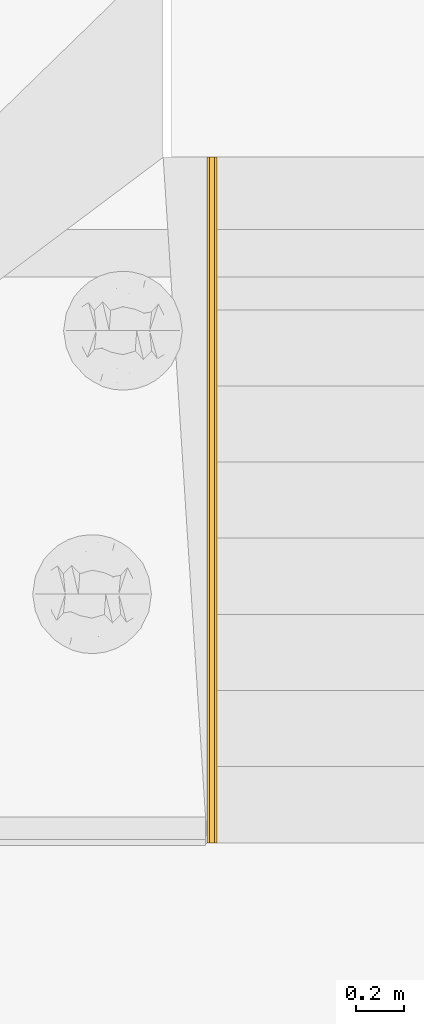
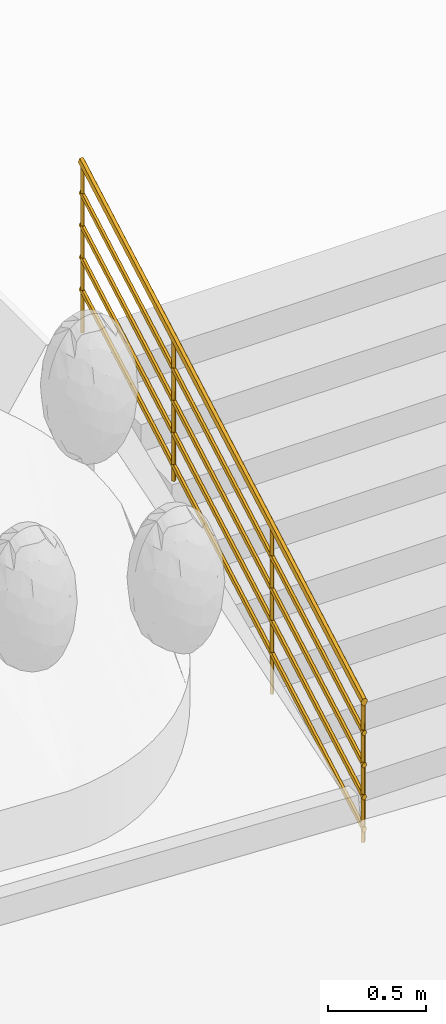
# One storey, part 18 of 23: 1 railing.
"""IFC2X3 building model written with IfcOpenShell, lengths in metres."""

from ifc_helpers import new_model, entity, si_unit, converted_unit, direction, frame, origin, place, context, subcontext, project, spatial, faceted_brep, material, material_list, type_object, element, save


model = new_model("IFC2X3")

# Units and contexts
model_context = context("Model", 3, precision=1e-05, world=origin(), true_north=direction((0.7716245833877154, 0.6360782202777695)))
body_context = subcontext(model_context, "Body", "Model", "MODEL_VIEW")
ifc_project = project(units=[si_unit("LENGTHUNIT", "METRE"), converted_unit("PLANEANGLEUNIT", "DEGREE", entity("IfcPlaneAngleMeasure", 0.017453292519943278), si_unit("PLANEANGLEUNIT", "RADIAN"), dimensions=[0, 0, 0, 0, 0, 0, 0]), si_unit("AREAUNIT", "SQUARE_METRE")], contexts=[model_context])

# Site, building, storey
site_placement = place(None, origin())
site = spatial("IfcSite", under=ifc_project, at=site_placement, Name="Default", CompositionType="ELEMENT")
building_placement = place(site_placement, origin())
building = spatial("IfcBuilding", under=site, at=building_placement, Name="<Building Name>", CompositionType="ELEMENT")
storey_placement = place(building_placement, origin())
storey = spatial("IfcBuildingStorey", under=building, at=storey_placement, Name="00 - HAV", CompositionType="ELEMENT", Elevation=0.0)

# Railing
ifc_material_1 = material(Name="A_Finish_Metal_Steel_Brushed")
ifc_material_2 = material(Name="Lys")
ifc_material_list = material_list([ifc_material_1, ifc_material_2])
railing_type = type_object("IfcRailingType", Name="Railing:900mm Pipe", PredefinedType="NOTDEFINED")
railing_placement = place(storey_placement, frame((244.40155707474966, 46.70337881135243, 31.679294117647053)))
element("IfcRailing", 1, at=railing_placement, inside=storey, type_object=railing_type, material=ifc_material_list, Name="Railing:900mm Pipe", ObjectType="Railing:900mm Pipe", PredefinedType="NOTDEFINED", context=body_context, shape_type="Brep", body=[
    faceted_brep([(0.009095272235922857, 1.9424009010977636, 1.9466904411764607), (0.01881376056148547, 1.9545875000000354, 1.953518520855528), (0.009095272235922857, 1.9424009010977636, 1.0757647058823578), (0.021595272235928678, 1.9549009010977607, 1.0757647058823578), (0.034095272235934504, 1.9424009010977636, 1.9466904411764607), (0.034095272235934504, 1.9424009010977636, 1.0757647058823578), (0.024376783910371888, 1.9302143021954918, 1.9398623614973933), (0.021595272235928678, 1.9299009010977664, 1.0757647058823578)], [[[0, 1, 2]], [[3, 2, 1]], [[4, 5, 3]], [[1, 4, 3]], [[6, 5, 4]], [[7, 5, 6]], [[0, 2, 7]], [[6, 0, 7]], [[6, 4, 1, 0]], [[5, 7, 2, 3]]]),
    faceted_brep([(0.009095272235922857, 0.942400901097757, 1.3863963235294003), (0.01881376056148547, 0.9545875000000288, 1.3932244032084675), (0.009095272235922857, 0.942400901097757, 0.3585882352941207), (0.021595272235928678, 0.9549009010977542, 0.3585882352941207), (0.034095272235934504, 0.942400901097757, 1.3863963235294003), (0.034095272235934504, 0.942400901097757, 0.3585882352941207), (0.024376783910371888, 0.9302143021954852, 1.379568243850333), (0.021595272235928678, 0.9299009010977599, 0.3585882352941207)], [[[0, 1, 2]], [[3, 2, 1]], [[4, 5, 3]], [[1, 4, 3]], [[6, 5, 4]], [[7, 5, 6]], [[0, 2, 7]], [[6, 0, 7]], [[6, 4, 1, 0]], [[5, 7, 2, 3]]]),
    faceted_brep([(0.009095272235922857, 2.8707143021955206, 2.466818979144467), (0.01881376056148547, 2.882900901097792, 2.473647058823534), (0.009095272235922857, 2.8707143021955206, 1.4343529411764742), (0.021595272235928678, 2.8832143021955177, 1.4343529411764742), (0.034095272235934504, 2.8707143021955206, 2.466818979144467), (0.034095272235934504, 2.8707143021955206, 1.4343529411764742), (0.024376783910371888, 2.8585277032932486, 2.4599908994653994), (0.021595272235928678, 2.8582143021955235, 1.4343529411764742)], [[[0, 1, 2]], [[3, 2, 1]], [[4, 5, 3]], [[1, 4, 3]], [[6, 5, 4]], [[7, 5, 6]], [[0, 2, 7]], [[6, 0, 7]], [[6, 4, 1, 0]], [[5, 7, 2, 3]]]),
    faceted_brep([(0.009095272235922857, 0.014087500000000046, 0.866267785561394), (0.01881376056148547, 0.02627409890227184, 0.8730958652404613), (0.009095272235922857, 0.014087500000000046, 0.0), (0.021595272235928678, 0.026587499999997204, 0.0), (0.034095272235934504, 0.014087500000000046, 0.866267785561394), (0.034095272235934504, 0.014087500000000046, 0.0), (0.024376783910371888, 0.0019009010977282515, 0.8594397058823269), (0.021595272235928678, 0.0015875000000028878, 0.0)], [[[0, 1, 2]], [[3, 2, 1]], [[4, 5, 3]], [[1, 4, 3]], [[6, 5, 4]], [[7, 5, 6]], [[0, 2, 7]], [[6, 0, 7]], [[6, 4, 1, 0]], [[5, 7, 2, 3]]]),
    faceted_brep([(0.03409527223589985, 0.0019009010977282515, 0.8616238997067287), (0.0365952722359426, 0.0019009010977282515, 0.8665873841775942), (0.03909527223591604, 0.0019009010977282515, 0.8715508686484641), (0.04159527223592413, 0.0019009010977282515, 0.876514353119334), (0.03908193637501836, 0.0019009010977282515, 0.8815043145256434), (0.03656860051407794, 0.0019009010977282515, 0.8864942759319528), (0.03408193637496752, 0.0019009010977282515, 0.8914312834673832), (0.031595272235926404, 0.0019009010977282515, 0.8963682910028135), (0.026595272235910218, 0.0019009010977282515, 0.8963682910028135), (0.021595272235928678, 0.0019009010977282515, 0.8963682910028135), (0.01659527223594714, 0.0019009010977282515, 0.8963682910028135), (0.011595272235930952, 0.0019009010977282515, 0.8963682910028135), (0.009095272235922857, 0.0019009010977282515, 0.8914048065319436), (0.0065952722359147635, 0.0019009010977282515, 0.8864413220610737), (0.004108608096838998, 0.0019009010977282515, 0.8815043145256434), (0.0015952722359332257, 0.0019009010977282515, 0.876514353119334), (0.004108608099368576, 0.0019009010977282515, 0.871524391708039), (0.0065952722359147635, 0.0019009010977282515, 0.8665873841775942), (0.009095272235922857, 0.0019009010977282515, 0.8616238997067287), (0.011595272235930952, 0.0019009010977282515, 0.8566604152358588), (0.01659527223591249, 0.0019009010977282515, 0.8566604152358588), (0.02159527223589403, 0.0019009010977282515, 0.8566604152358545), (0.026595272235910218, 0.0019009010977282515, 0.8566604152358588), (0.031595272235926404, 0.0019009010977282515, 0.8566604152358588), (0.011595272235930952, 2.882900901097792, 2.47086776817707), (0.009108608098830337, 2.882900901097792, 2.4758047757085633), (0.006621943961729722, 2.882900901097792, 2.4807417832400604), (0.0041086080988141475, 2.8829009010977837, 2.485731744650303), (0.0015952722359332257, 2.882900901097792, 2.4907217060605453), (0.00409527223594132, 2.882900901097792, 2.4956851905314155), (0.0065952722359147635, 2.882900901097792, 2.500648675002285), (0.009095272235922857, 2.882900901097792, 2.5056121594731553), (0.011595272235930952, 2.882900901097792, 2.510575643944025), (0.01659527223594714, 2.882900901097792, 2.510575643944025), (0.021595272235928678, 2.882900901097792, 2.510575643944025), (0.026595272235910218, 2.882900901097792, 2.510575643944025), (0.031595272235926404, 2.882900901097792, 2.510575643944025), (0.034095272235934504, 2.882900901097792, 2.5056121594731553), (0.0365952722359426, 2.882900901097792, 2.500648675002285), (0.039081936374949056, 2.882900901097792, 2.4957116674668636), (0.04159527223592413, 2.882900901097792, 2.4907217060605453), (0.03908193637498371, 2.882900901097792, 2.485731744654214), (0.0365952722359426, 2.882900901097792, 2.48079473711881), (0.03409527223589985, 2.882900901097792, 2.475831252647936), (0.031595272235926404, 2.882900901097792, 2.47086776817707), (0.026595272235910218, 2.882900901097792, 2.47086776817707), (0.021595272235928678, 2.882900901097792, 2.47086776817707), (0.01659527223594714, 2.882900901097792, 2.47086776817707)], [[[0, 1, 2, 3, 4, 5, 6, 7, 8, 9, 10, 11, 12, 13, 14, 15, 16, 17, 18, 19, 20, 21, 22, 23]], [[24, 25, 26, 27, 28, 29, 30, 31, 32, 33, 34, 35, 36, 37, 38, 39, 40, 41, 42, 43, 44, 45, 46, 47]], [[33, 32, 11, 10, 9, 8, 7, 36, 35, 34]], [[13, 12, 11, 32, 31, 30, 29, 28, 15, 14]], [[38, 37, 36, 7, 6, 5, 4, 3, 40, 39]], [[19, 18, 17, 16, 15, 28, 27, 26, 25, 24]], [[46, 45, 44, 23, 22, 21, 20, 19, 24, 47]], [[0, 23, 44, 43, 42, 41, 40, 3, 2, 1]]]),
    faceted_brep([(0.02909527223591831, 0.0019009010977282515, 0.8523552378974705), (0.030970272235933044, 0.0019009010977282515, 0.8560778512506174), (0.032845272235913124, 0.0019009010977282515, 0.8598004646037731), (0.034720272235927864, 0.0019009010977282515, 0.8635230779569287), (0.0365952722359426, 0.0019009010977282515, 0.8672456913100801), (0.034961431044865, 0.0019009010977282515, 0.870489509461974), (0.033327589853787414, 0.0019009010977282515, 0.8737333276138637), (0.03121143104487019, 0.0019009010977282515, 0.877934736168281), (0.02909527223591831, 0.0019009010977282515, 0.8821361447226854), (0.025345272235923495, 0.0019009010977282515, 0.8821361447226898), (0.02159527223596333, 0.0019009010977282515, 0.8821361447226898), (0.01784527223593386, 0.0019009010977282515, 0.8821361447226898), (0.014095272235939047, 0.0019009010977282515, 0.8821361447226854), (0.012220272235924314, 0.0019009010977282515, 0.878413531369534), (0.01034527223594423, 0.0019009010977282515, 0.8746909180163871), (0.008229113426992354, 0.0019009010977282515, 0.870489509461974), (0.0065952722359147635, 0.0019009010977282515, 0.8672456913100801), (0.008470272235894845, 0.0019009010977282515, 0.8635230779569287), (0.01034527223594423, 0.0019009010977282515, 0.8598004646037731), (0.012220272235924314, 0.0019009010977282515, 0.8560778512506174), (0.014095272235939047, 0.0019009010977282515, 0.8523552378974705), (0.01784527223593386, 0.0019009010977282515, 0.8523552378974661), (0.021595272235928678, 0.0019009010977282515, 0.8523552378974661), (0.025345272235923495, 0.0019009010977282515, 0.8523552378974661), (0.011979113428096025, 2.882900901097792, 2.4707639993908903), (0.009862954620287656, 2.882900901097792, 2.4749654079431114), (0.008229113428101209, 2.882900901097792, 2.4782092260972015), (0.0065952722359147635, 2.882900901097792, 2.4814530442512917), (0.008470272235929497, 2.882900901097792, 2.4851756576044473), (0.01034527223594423, 2.882900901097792, 2.4888982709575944), (0.012220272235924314, 2.8829009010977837, 2.49262088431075), (0.014095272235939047, 2.882900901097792, 2.4963434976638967), (0.01784527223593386, 2.882900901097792, 2.496343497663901), (0.021595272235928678, 2.882900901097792, 2.496343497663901), (0.025345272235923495, 2.882900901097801, 2.4963434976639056), (0.02909527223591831, 2.882900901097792, 2.4963434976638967), (0.030970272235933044, 2.882900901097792, 2.49262088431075), (0.03284527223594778, 2.882900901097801, 2.4888982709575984), (0.034720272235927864, 2.882900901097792, 2.4851756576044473), (0.0365952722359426, 2.882900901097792, 2.4814530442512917), (0.034961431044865, 2.882900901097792, 2.478209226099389), (0.032845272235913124, 2.882900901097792, 2.4740078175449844), (0.030970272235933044, 2.882900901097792, 2.4702852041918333), (0.02909527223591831, 2.882900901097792, 2.466562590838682), (0.025345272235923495, 2.882900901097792, 2.4665625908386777), (0.021595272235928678, 2.882900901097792, 2.4665625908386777), (0.01784527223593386, 2.882900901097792, 2.4665625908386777), (0.014095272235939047, 2.882900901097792, 2.466562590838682)], [[[0, 1, 2, 3, 4, 5, 6, 7, 8, 9, 10, 11, 12, 13, 14, 15, 16, 17, 18, 19, 20, 21, 22, 23]], [[24, 25, 26, 27, 28, 29, 30, 31, 32, 33, 34, 35, 36, 37, 38, 39, 40, 41, 42, 43, 44, 45, 46, 47]], [[6, 5, 4, 39, 38, 37, 36, 35, 8, 7]], [[14, 13, 12, 31, 30, 29, 28, 27, 16, 15]], [[10, 9, 8, 35, 34, 33, 32, 31, 12, 11]], [[18, 17, 16, 27, 26, 25, 24, 47, 20, 19]], [[45, 44, 43, 0, 23, 22, 21, 20, 47, 46]], [[2, 1, 0, 43, 42, 41, 40, 39, 4, 3]]]),
    faceted_brep([(0.02909527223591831, 0.0019009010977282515, 0.6673552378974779), (0.030970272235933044, 0.0019009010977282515, 0.6710778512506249), (0.032845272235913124, 0.0019009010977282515, 0.6748004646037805), (0.034720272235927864, 0.0019009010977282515, 0.6785230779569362), (0.0365952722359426, 0.0019009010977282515, 0.6822456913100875), (0.034961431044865, 0.0019009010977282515, 0.6854895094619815), (0.033327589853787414, 0.0019009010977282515, 0.6887333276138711), (0.03121143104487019, 0.0019009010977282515, 0.6929347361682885), (0.02909527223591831, 0.0019009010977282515, 0.6971361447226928), (0.025345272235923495, 0.0019009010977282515, 0.6971361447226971), (0.02159527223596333, 0.0019009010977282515, 0.6971361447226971), (0.01784527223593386, 0.0019009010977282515, 0.6971361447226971), (0.014095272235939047, 0.0019009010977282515, 0.6971361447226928), (0.012220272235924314, 0.0019009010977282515, 0.6934135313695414), (0.01034527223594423, 0.0019009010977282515, 0.6896909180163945), (0.008229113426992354, 0.0019009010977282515, 0.6854895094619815), (0.0065952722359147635, 0.0019009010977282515, 0.6822456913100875), (0.008470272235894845, 0.0019009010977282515, 0.6785230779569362), (0.01034527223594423, 0.0019009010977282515, 0.6748004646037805), (0.012220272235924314, 0.0019009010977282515, 0.6710778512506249), (0.014095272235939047, 0.0019009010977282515, 0.6673552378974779), (0.01784527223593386, 0.0019009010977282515, 0.6673552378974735), (0.021595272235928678, 0.0019009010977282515, 0.6673552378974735), (0.025345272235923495, 0.0019009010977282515, 0.6673552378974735), (0.011979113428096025, 2.882900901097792, 2.285763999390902), (0.009862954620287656, 2.882900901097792, 2.289965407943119), (0.008229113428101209, 2.882900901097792, 2.293209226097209), (0.0065952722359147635, 2.882900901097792, 2.296453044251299), (0.008470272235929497, 2.882900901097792, 2.3001756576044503), (0.01034527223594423, 2.882900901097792, 2.3038982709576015), (0.012220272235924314, 2.8829009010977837, 2.307620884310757), (0.014095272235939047, 2.882900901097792, 2.3113434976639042), (0.01784527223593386, 2.882900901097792, 2.3113434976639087), (0.021595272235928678, 2.882900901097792, 2.3113434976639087), (0.025345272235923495, 2.882900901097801, 2.311343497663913), (0.02909527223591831, 2.882900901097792, 2.3113434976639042), (0.030970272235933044, 2.882900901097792, 2.307620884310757), (0.03284527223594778, 2.882900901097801, 2.3038982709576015), (0.034720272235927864, 2.882900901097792, 2.3001756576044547), (0.0365952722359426, 2.882900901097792, 2.296453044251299), (0.034961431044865, 2.882900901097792, 2.293209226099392), (0.032845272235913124, 2.882900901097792, 2.289007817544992), (0.030970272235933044, 2.882900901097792, 2.2852852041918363), (0.02909527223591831, 2.882900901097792, 2.281562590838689), (0.025345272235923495, 2.882900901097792, 2.281562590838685), (0.021595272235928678, 2.882900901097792, 2.281562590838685), (0.01784527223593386, 2.882900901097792, 2.281562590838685), (0.014095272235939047, 2.882900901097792, 2.281562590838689)], [[[0, 1, 2, 3, 4, 5, 6, 7, 8, 9, 10, 11, 12, 13, 14, 15, 16, 17, 18, 19, 20, 21, 22, 23]], [[24, 25, 26, 27, 28, 29, 30, 31, 32, 33, 34, 35, 36, 37, 38, 39, 40, 41, 42, 43, 44, 45, 46, 47]], [[6, 5, 4, 39, 38, 37, 36, 35, 8, 7]], [[14, 13, 12, 31, 30, 29, 28, 27, 16, 15]], [[10, 9, 8, 35, 34, 33, 32, 31, 12, 11]], [[18, 17, 16, 27, 26, 25, 24, 47, 20, 19]], [[45, 44, 43, 0, 23, 22, 21, 20, 47, 46]], [[2, 1, 0, 43, 42, 41, 40, 39, 4, 3]]]),
    faceted_brep([(0.02909527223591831, 0.0019009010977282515, 0.4673552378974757), (0.030970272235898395, 0.0019009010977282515, 0.4710778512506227), (0.032845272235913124, 0.0019009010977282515, 0.47480046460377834), (0.034720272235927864, 0.0019009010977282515, 0.47852307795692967), (0.0365952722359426, 0.0019009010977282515, 0.4822456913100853), (0.034961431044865, 0.0019009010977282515, 0.48548950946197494), (0.033327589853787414, 0.0019009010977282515, 0.4887333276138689), (0.03121143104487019, 0.0019009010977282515, 0.49293473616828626), (0.02909527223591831, 0.0019009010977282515, 0.49713614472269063), (0.025345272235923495, 0.0019009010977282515, 0.49713614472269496), (0.02159527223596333, 0.0019009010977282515, 0.4971361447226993), (0.01784527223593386, 0.0019009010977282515, 0.49713614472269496), (0.014095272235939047, 0.0019009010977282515, 0.49713614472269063), (0.012220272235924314, 0.0019009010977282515, 0.49341353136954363), (0.01034527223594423, 0.0019009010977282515, 0.489690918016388), (0.008229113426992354, 0.0019009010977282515, 0.48548950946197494), (0.0065952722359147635, 0.0019009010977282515, 0.4822456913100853), (0.008470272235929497, 0.0019009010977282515, 0.478523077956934), (0.01034527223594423, 0.0019009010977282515, 0.47480046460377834), (0.012220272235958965, 0.0019009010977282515, 0.471077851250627), (0.014095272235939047, 0.0019009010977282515, 0.4673552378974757), (0.01784527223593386, 0.0019009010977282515, 0.46735523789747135), (0.021595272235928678, 0.0019009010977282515, 0.46735523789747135), (0.025345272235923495, 0.0019009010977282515, 0.46735523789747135), (0.011979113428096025, 2.882900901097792, 2.0857639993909), (0.009862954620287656, 2.882900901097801, 2.089965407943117), (0.008229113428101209, 2.882900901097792, 2.0932092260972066), (0.0065952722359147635, 2.882900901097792, 2.0964530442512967), (0.008470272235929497, 2.882900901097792, 2.100175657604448), (0.01034527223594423, 2.882900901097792, 2.103898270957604), (0.012220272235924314, 2.8829009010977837, 2.107620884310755), (0.014095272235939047, 2.882900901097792, 2.1113434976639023), (0.01784527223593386, 2.882900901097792, 2.1113434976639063), (0.021595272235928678, 2.882900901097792, 2.1113434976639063), (0.025345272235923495, 2.882900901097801, 2.1113434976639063), (0.02909527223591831, 2.882900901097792, 2.1113434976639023), (0.030970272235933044, 2.882900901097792, 2.107620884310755), (0.03284527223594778, 2.882900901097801, 2.103898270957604), (0.034720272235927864, 2.882900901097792, 2.100175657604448), (0.0365952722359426, 2.882900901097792, 2.0964530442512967), (0.034961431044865, 2.882900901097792, 2.0932092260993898), (0.03284527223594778, 2.882900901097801, 2.08900781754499), (0.030970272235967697, 2.882900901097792, 2.0852852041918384), (0.02909527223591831, 2.882900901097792, 2.081562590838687), (0.025345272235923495, 2.882900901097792, 2.081562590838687), (0.021595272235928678, 2.882900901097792, 2.081562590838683), (0.017845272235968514, 2.882900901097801, 2.081562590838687), (0.014095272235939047, 2.882900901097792, 2.081562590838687)], [[[0, 1, 2, 3, 4, 5, 6, 7, 8, 9, 10, 11, 12, 13, 14, 15, 16, 17, 18, 19, 20, 21, 22, 23]], [[24, 25, 26, 27, 28, 29, 30, 31, 32, 33, 34, 35, 36, 37, 38, 39, 40, 41, 42, 43, 44, 45, 46, 47]], [[6, 5, 4, 39, 38, 37, 36, 35, 8, 7]], [[14, 13, 12, 31, 30, 29, 28, 27, 16, 15]], [[10, 9, 8, 35, 34, 33, 32, 31, 12, 11]], [[18, 17, 16, 27, 26, 25, 24, 47, 20, 19]], [[45, 44, 43, 0, 23, 22, 21, 20, 47, 46]], [[2, 1, 0, 43, 42, 41, 40, 39, 4, 3]]]),
    faceted_brep([(0.02909527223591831, 0.0019009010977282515, 0.26735523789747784), (0.030970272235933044, 0.0019009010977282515, 0.27107785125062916), (0.032845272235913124, 0.0019009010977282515, 0.2748004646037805), (0.034720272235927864, 0.0019009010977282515, 0.2785230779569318), (0.0365952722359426, 0.0019009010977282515, 0.2822456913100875), (0.034961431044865, 0.0019009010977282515, 0.2854895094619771), (0.033327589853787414, 0.0019009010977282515, 0.28873332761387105), (0.03121143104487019, 0.0019009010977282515, 0.2929347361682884), (0.02909527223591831, 0.0019009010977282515, 0.2971361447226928), (0.025345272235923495, 0.0019009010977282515, 0.2971361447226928), (0.02159527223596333, 0.0019009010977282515, 0.29713614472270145), (0.01784527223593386, 0.0019009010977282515, 0.2971361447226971), (0.014095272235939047, 0.0019009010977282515, 0.2971361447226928), (0.012220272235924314, 0.0019009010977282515, 0.29341353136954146), (0.01034527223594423, 0.0019009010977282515, 0.28969091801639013), (0.008229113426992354, 0.0019009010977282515, 0.2854895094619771), (0.0065952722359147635, 0.0019009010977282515, 0.2822456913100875), (0.008470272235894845, 0.0019009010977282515, 0.2785230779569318), (0.01034527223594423, 0.0019009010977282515, 0.2748004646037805), (0.012220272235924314, 0.0019009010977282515, 0.27107785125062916), (0.014095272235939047, 0.0019009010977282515, 0.26735523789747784), (0.01784527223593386, 0.0019009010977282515, 0.2673552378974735), (0.021595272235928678, 0.0019009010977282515, 0.2673552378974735), (0.025345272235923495, 0.0019009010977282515, 0.2673552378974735), (0.011979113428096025, 2.882900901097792, 1.885763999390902), (0.009862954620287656, 2.882900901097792, 1.8899654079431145), (0.008229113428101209, 2.882900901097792, 1.8932092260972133), (0.0065952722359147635, 2.882900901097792, 1.896453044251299), (0.008470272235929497, 2.882900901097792, 1.9001756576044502), (0.01034527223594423, 2.882900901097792, 1.903898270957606), (0.012220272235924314, 2.8829009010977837, 1.907620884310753), (0.014095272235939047, 2.882900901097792, 1.9113434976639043), (0.01784527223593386, 2.882900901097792, 1.9113434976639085), (0.021595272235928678, 2.882900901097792, 1.9113434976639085), (0.025345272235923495, 2.882900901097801, 1.9113434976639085), (0.02909527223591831, 2.882900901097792, 1.9113434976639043), (0.030970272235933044, 2.882900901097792, 1.9076208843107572), (0.03284527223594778, 2.882900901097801, 1.903898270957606), (0.034720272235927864, 2.882900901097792, 1.9001756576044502), (0.0365952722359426, 2.882900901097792, 1.896453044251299), (0.034961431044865, 2.882900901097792, 1.893209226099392), (0.032845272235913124, 2.882900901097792, 1.889007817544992), (0.030970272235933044, 2.882900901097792, 1.8852852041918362), (0.02909527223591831, 2.882900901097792, 1.8815625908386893), (0.025345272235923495, 2.882900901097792, 1.8815625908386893), (0.021595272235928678, 2.882900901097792, 1.881562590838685), (0.01784527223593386, 2.882900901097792, 1.881562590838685), (0.014095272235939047, 2.882900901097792, 1.8815625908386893)], [[[0, 1, 2, 3, 4, 5, 6, 7, 8, 9, 10, 11, 12, 13, 14, 15, 16, 17, 18, 19, 20, 21, 22, 23]], [[24, 25, 26, 27, 28, 29, 30, 31, 32, 33, 34, 35, 36, 37, 38, 39, 40, 41, 42, 43, 44, 45, 46, 47]], [[6, 5, 4, 39, 38, 37, 36, 35, 8, 7]], [[14, 13, 12, 31, 30, 29, 28, 27, 16, 15]], [[10, 9, 8, 35, 34, 33, 32, 31, 12, 11]], [[18, 17, 16, 27, 26, 25, 24, 47, 20, 19]], [[45, 44, 43, 0, 23, 22, 21, 20, 47, 46]], [[2, 1, 0, 43, 42, 41, 40, 39, 4, 3]]]),
    faceted_brep([(0.02909527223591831, 0.0019009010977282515, 0.06735523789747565), (0.030970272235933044, 0.0019009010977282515, 0.07107785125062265), (0.032845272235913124, 0.0019009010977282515, 0.0748004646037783), (0.034720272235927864, 0.0019009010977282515, 0.07852307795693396), (0.0365952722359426, 0.0019009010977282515, 0.08224569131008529), (0.034961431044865, 0.0019009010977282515, 0.08548950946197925), (0.033327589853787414, 0.0019009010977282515, 0.08873332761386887), (0.03121143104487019, 0.0019009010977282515, 0.09293473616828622), (0.02909527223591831, 0.0019009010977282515, 0.0971361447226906), (0.025345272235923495, 0.0019009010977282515, 0.09713614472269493), (0.02159527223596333, 0.0019009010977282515, 0.09713614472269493), (0.01784527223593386, 0.0019009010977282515, 0.09713614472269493), (0.014095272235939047, 0.0019009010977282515, 0.0971361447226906), (0.012220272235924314, 0.0019009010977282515, 0.09341353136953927), (0.01034527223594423, 0.0019009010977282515, 0.08969091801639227), (0.008229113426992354, 0.0019009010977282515, 0.08548950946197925), (0.0065952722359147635, 0.0019009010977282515, 0.08224569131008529), (0.008470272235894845, 0.0019009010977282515, 0.07852307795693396), (0.01034527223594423, 0.0019009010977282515, 0.0748004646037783), (0.012220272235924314, 0.0019009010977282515, 0.07107785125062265), (0.014095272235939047, 0.0019009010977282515, 0.06735523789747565), (0.01784527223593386, 0.0019009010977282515, 0.06735523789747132), (0.021595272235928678, 0.0019009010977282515, 0.06735523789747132), (0.025345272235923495, 0.0019009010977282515, 0.06735523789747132), (0.011979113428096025, 2.882900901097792, 1.6857639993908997), (0.009862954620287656, 2.882900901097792, 1.6899654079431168), (0.008229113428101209, 2.882900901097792, 1.6932092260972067), (0.0065952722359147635, 2.882900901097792, 1.6964530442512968), (0.008470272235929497, 2.882900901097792, 1.700175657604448), (0.01034527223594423, 2.882900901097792, 1.7038982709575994), (0.012220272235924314, 2.8829009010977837, 1.707620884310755), (0.014095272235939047, 2.882900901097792, 1.7113434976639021), (0.01784527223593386, 2.882900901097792, 1.7113434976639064), (0.021595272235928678, 2.882900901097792, 1.7113434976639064), (0.025345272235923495, 2.882900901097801, 1.7113434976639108), (0.02909527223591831, 2.882900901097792, 1.7113434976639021), (0.030970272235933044, 2.882900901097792, 1.707620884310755), (0.03284527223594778, 2.882900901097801, 1.7038982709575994), (0.034720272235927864, 2.882900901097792, 1.7001756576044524), (0.0365952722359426, 2.882900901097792, 1.6964530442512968), (0.034961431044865, 2.882900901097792, 1.6932092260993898), (0.032845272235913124, 2.882900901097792, 1.6890078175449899), (0.030970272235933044, 2.882900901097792, 1.685285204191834), (0.02909527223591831, 2.882900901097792, 1.681562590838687), (0.025345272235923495, 2.882900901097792, 1.6815625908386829), (0.021595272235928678, 2.882900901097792, 1.6815625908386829), (0.01784527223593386, 2.882900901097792, 1.6815625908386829), (0.014095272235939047, 2.882900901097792, 1.681562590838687)], [[[0, 1, 2, 3, 4, 5, 6, 7, 8, 9, 10, 11, 12, 13, 14, 15, 16, 17, 18, 19, 20, 21, 22, 23]], [[24, 25, 26, 27, 28, 29, 30, 31, 32, 33, 34, 35, 36, 37, 38, 39, 40, 41, 42, 43, 44, 45, 46, 47]], [[6, 5, 4, 39, 38, 37, 36, 35, 8, 7]], [[14, 13, 12, 31, 30, 29, 28, 27, 16, 15]], [[10, 9, 8, 35, 34, 33, 32, 31, 12, 11]], [[18, 17, 16, 27, 26, 25, 24, 47, 20, 19]], [[45, 44, 43, 0, 23, 22, 21, 20, 47, 46]], [[2, 1, 0, 43, 42, 41, 40, 39, 4, 3]]]),
])

save(model, "model.ifc")
